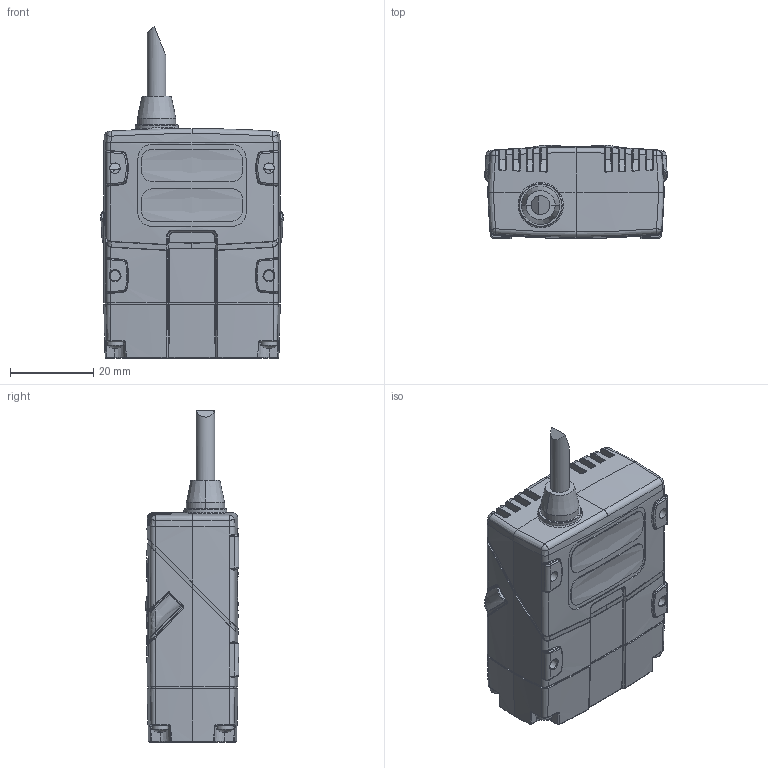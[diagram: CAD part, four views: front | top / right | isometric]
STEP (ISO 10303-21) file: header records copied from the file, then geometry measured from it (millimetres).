
FILE_DESCRIPTION (( 'STEP AP214' ), '1' );
FILE_NAME ('DM150s.STEP', '2015-04-21T13:50:30', ( 'anessel' ), ( 'Microsoft' ), 'SwSTEP 2.0', 'SolidWorks 2014', '' );
FILE_SCHEMA (( 'AUTOMOTIVE_DESIGN' ));
Length unit declared in the file: millimetre
Products named in the file (1): DM150s
Bounding box: 43.87 x 22.45 x 79.76 mm (x, y, z)
Surface area: 11193.7 mm2 (no closed solid volume)
Topology: 0 solids, 28 shells, 1087 faces, 3530 edges, 2408 vertices
Faces by surface type: bspline 477, plane 258, cylinder 207, cone 74, torus 51, sphere 20
Full cylindrical faces by diameter (mm): 2.5 x4, 4 x6, 4.5 x1, 10.3 x1
Entity records: 66407 total; most frequent: CARTESIAN_POINT 28997, ORIENTED_EDGE 5843, DIRECTION 3791, EDGE_CURVE 3497, VERTEX_POINT 2400, B_SPLINE_CURVE_WITH_KNOTS 1509, AXIS2_PLACEMENT_3D 1416, EDGE_LOOP 1178
